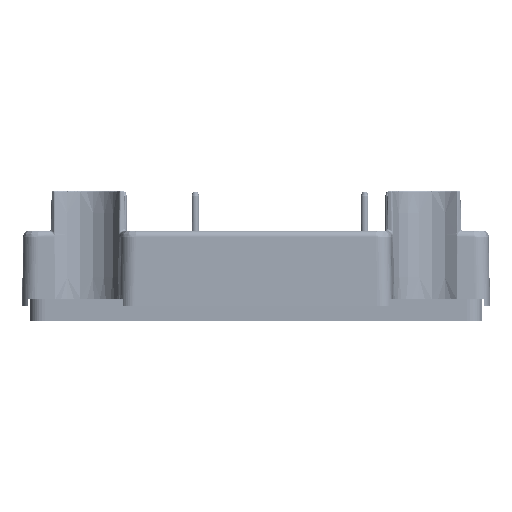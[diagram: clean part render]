
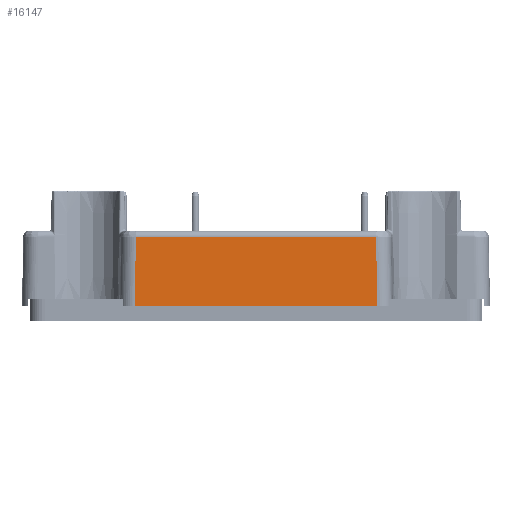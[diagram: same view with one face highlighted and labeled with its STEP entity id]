
A CAD part, left-side view. The second image highlights one B-rep face of the part: STEP entity #16147.
In plain terms, the highlighted planar face has unit normal (-1, 0, 0.018).
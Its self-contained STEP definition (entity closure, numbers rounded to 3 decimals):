
#4566=DIRECTION('',(-0.017,-0.017,-1.));
#4567=VECTOR('',#4566,9.217);
#4568=CARTESIAN_POINT('',(-56.339,29.955,9.214));
#4569=LINE('',#4568,#4567);
#4570=DIRECTION('',(0.,1.,0.));
#4571=VECTOR('',#4570,32.136);
#4572=CARTESIAN_POINT('',(-56.5,29.795,0.));
#4573=LINE('',#4572,#4571);
#4574=DIRECTION('',(0.017,-0.017,1.));
#4575=VECTOR('',#4574,9.217);
#4576=CARTESIAN_POINT('',(-56.5,61.93,0.));
#4577=LINE('',#4576,#4575);
#4582=DIRECTION('',(0.,1.,0.));
#4583=VECTOR('',#4582,31.814);
#4584=CARTESIAN_POINT('',(-56.339,29.955,9.214));
#4585=LINE('',#4584,#4583);
#13793=CARTESIAN_POINT('',(-56.5,29.795,0.));
#13794=CARTESIAN_POINT('',(-56.5,61.93,0.));
#13795=VERTEX_POINT('',#13793);
#13796=VERTEX_POINT('',#13794);
#13799=CARTESIAN_POINT('',(-56.339,29.955,
9.214));
#13800=CARTESIAN_POINT('',(-56.339,61.769,
9.214));
#13801=VERTEX_POINT('',#13799);
#13802=VERTEX_POINT('',#13800);
#16133=CARTESIAN_POINT('',(-56.5,45.862,0.));
#16134=DIRECTION('',(-1.,0.,0.017));
#16135=DIRECTION('',(0.,1.,0.));
#16136=AXIS2_PLACEMENT_3D('',#16133,#16134,#16135);
#16137=PLANE('',#16136);
#16139=ORIENTED_EDGE('',*,*,#16138,.F.);
#16141=ORIENTED_EDGE('',*,*,#16140,.T.);
#16142=ORIENTED_EDGE('',*,*,#16119,.T.);
#16144=ORIENTED_EDGE('',*,*,#16143,.T.);
#16145=EDGE_LOOP('',(#16139,#16141,#16142,#16144));
#16146=FACE_OUTER_BOUND('',#16145,.F.);
#16147=ADVANCED_FACE('',(#16146),#16137,.T.);
#16119=EDGE_CURVE('',#13795,#13796,#4573,.T.);
#16138=EDGE_CURVE('',#13801,#13802,#4585,.T.);
#16140=EDGE_CURVE('',#13801,#13795,#4569,.T.);
#16143=EDGE_CURVE('',#13796,#13802,#4577,.T.);
